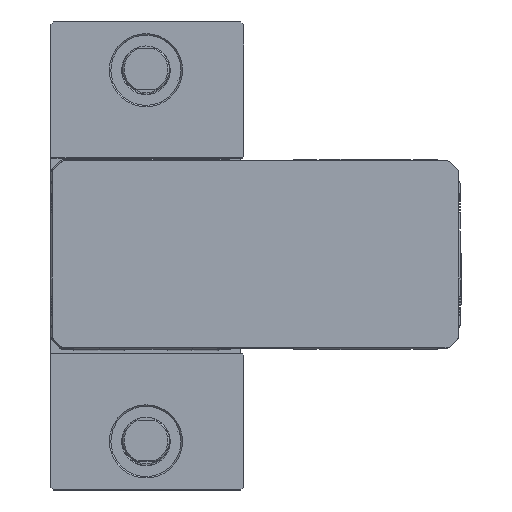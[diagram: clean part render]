
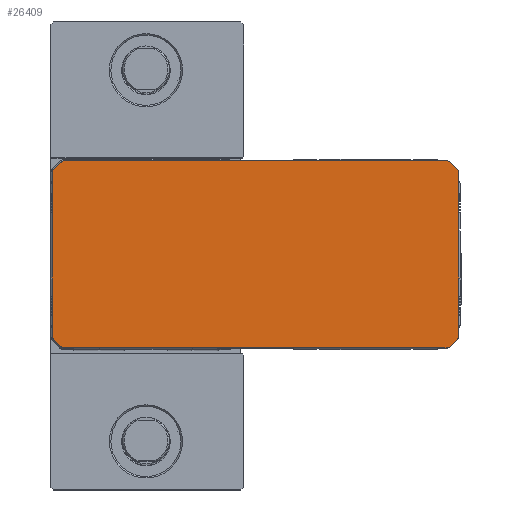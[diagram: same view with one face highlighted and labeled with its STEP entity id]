
A CAD part, top view. The second image highlights one B-rep face of the part: STEP entity #26409.
In plain terms, the highlighted planar face has unit normal (0, 0, 1).
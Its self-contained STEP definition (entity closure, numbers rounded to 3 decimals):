
#55 = DIRECTION ( 'NONE',  ( 0.707, -0.707, 0. ) ) ;
#225 = ORIENTED_EDGE ( 'NONE', *, *, #12434, .T. ) ;
#317 = CARTESIAN_POINT ( 'NONE',  ( 106.561, 29.061, 302.5 ) ) ;
#1016 = CARTESIAN_POINT ( 'NONE',  ( -28., -32., 302.5 ) ) ;
#1058 = VERTEX_POINT ( 'NONE', #11280 ) ;
#1327 = VERTEX_POINT ( 'NONE', #28249 ) ;
#1539 = ORIENTED_EDGE ( 'NONE', *, *, #14083, .T. ) ;
#2346 = DIRECTION ( 'NONE',  ( -1., 0., 0. ) ) ;
#2364 = CARTESIAN_POINT ( 'NONE',  ( 107., -28., 302.5 ) ) ;
#2459 = VECTOR ( 'NONE', #38794, 1000. ) ;
#2741 = CARTESIAN_POINT ( 'NONE',  ( -28., 30.5, 302.5 ) ) ;
#2784 = VERTEX_POINT ( 'NONE', #33770 ) ;
#2898 = CARTESIAN_POINT ( 'NONE',  ( -28., -32., 302.5 ) ) ;
#3455 = VECTOR ( 'NONE', #25543, 1000. ) ;
#3543 = VERTEX_POINT ( 'NONE', #21752 ) ;
#4581 = ORIENTED_EDGE ( 'NONE', *, *, #42526, .T. ) ;
#5766 = LINE ( 'NONE', #317, #2459 ) ;
#5775 = LINE ( 'NONE', #38527, #23335 ) ;
#6048 = LINE ( 'NONE', #30995, #41107 ) ;
#6263 = DIRECTION ( 'NONE',  ( 1., 0., 0. ) ) ;
#6454 = DIRECTION ( 'NONE',  ( 0.707, 0.707, 0. ) ) ;
#7000 = CARTESIAN_POINT ( 'NONE',  ( -29.061, 31.561, 302.5 ) ) ;
#7568 = DIRECTION ( 'NONE',  ( 0., 0., 1. ) ) ;
#7994 = EDGE_CURVE ( 'NONE', #13629, #1058, #5775, .T. ) ;
#8354 = EDGE_CURVE ( 'NONE', #2784, #44758, #35449, .T. ) ;
#8375 = LINE ( 'NONE', #23366, #44527 ) ;
#9029 = DIRECTION ( 'NONE',  ( 0., 0., 1. ) ) ;
#9216 = AXIS2_PLACEMENT_3D ( 'NONE', #30084, #9029, #33583 ) ;
#9392 = DIRECTION ( 'NONE',  ( 0., -1., 0. ) ) ;
#9429 = DIRECTION ( 'NONE',  ( 0., 1., 0. ) ) ;
#10308 = VERTEX_POINT ( 'NONE', #36314 ) ;
#10529 = DIRECTION ( 'NONE',  ( -0.707, -0.707, 0. ) ) ;
#10617 = DIRECTION ( 'NONE',  ( 0., 0., 1. ) ) ;
#10810 = CIRCLE ( 'NONE', #14038, 1.5 ) ;
#11261 = CARTESIAN_POINT ( 'NONE',  ( -30.5, 28., 302.5 ) ) ;
#11280 = CARTESIAN_POINT ( 'NONE',  ( -29.061, -31.561, 302.5 ) ) ;
#11427 = CARTESIAN_POINT ( 'NONE',  ( -31.561, 29.061, 302.5 ) ) ;
#11665 = LINE ( 'NONE', #1016, #3455 ) ;
#12256 = EDGE_LOOP ( 'NONE', ( #26912, #19142, #32892, #13917, #1539, #32630, #36333, #4581, #33469, #225, #29582, #24492, #33983, #35821, #43242, #26121 ) ) ;
#12434 = EDGE_CURVE ( 'NONE', #37988, #44436, #5766, .T. ) ;
#12457 = LINE ( 'NONE', #7000, #22885 ) ;
#13355 = EDGE_CURVE ( 'NONE', #1058, #42032, #44566, .T. ) ;
#13395 = CARTESIAN_POINT ( 'NONE',  ( 107., -28., 302.5 ) ) ;
#13629 = VERTEX_POINT ( 'NONE', #23952 ) ;
#13917 = ORIENTED_EDGE ( 'NONE', *, *, #25781, .T. ) ;
#14038 = AXIS2_PLACEMENT_3D ( 'NONE', #11261, #35802, #14772 ) ;
#14083 = EDGE_CURVE ( 'NONE', #25092, #31373, #14893, .T. ) ;
#14227 = CARTESIAN_POINT ( 'NONE',  ( -28., 32., 302.5 ) ) ;
#14594 = CARTESIAN_POINT ( 'NONE',  ( -28., -30.5, 302.5 ) ) ;
#14714 = CARTESIAN_POINT ( 'NONE',  ( 103., -32., 302.5 ) ) ;
#14772 = DIRECTION ( 'NONE',  ( 1., 0., 0. ) ) ;
#14893 = CIRCLE ( 'NONE', #9216, 1.5 ) ;
#15367 = PLANE ( 'NONE',  #20820 ) ;
#15600 = CARTESIAN_POINT ( 'NONE',  ( 103., 30.5, 302.5 ) ) ;
#16446 = CIRCLE ( 'NONE', #42165, 1.5 ) ;
#17028 = DIRECTION ( 'NONE',  ( 0., 0., 1. ) ) ;
#17272 = EDGE_CURVE ( 'NONE', #1327, #39203, #12457, .T. ) ;
#17678 = EDGE_CURVE ( 'NONE', #3543, #40257, #8375, .T. ) ;
#18099 = DIRECTION ( 'NONE',  ( 1., 0., 0. ) ) ;
#18844 = AXIS2_PLACEMENT_3D ( 'NONE', #14594, #39098, #18099 ) ;
#18876 = DIRECTION ( 'NONE',  ( 0., 0., 1. ) ) ;
#19108 = DIRECTION ( 'NONE',  ( 1., 0., 0. ) ) ;
#19142 = ORIENTED_EDGE ( 'NONE', *, *, #7994, .T. ) ;
#20820 = AXIS2_PLACEMENT_3D ( 'NONE', #39725, #18876, #43397 ) ;
#20893 = AXIS2_PLACEMENT_3D ( 'NONE', #2741, #27267, #6263 ) ;
#21752 = CARTESIAN_POINT ( 'NONE',  ( 103., 32., 302.5 ) ) ;
#22328 = CIRCLE ( 'NONE', #20893, 1.5 ) ;
#22509 = EDGE_CURVE ( 'NONE', #44436, #3543, #41375, .T. ) ;
#22885 = VECTOR ( 'NONE', #10529, 1000. ) ;
#23096 = VECTOR ( 'NONE', #9429, 1000. ) ;
#23335 = VECTOR ( 'NONE', #55, 1000. ) ;
#23366 = CARTESIAN_POINT ( 'NONE',  ( 103., 32., 302.5 ) ) ;
#23952 = CARTESIAN_POINT ( 'NONE',  ( -31.561, -29.061, 302.5 ) ) ;
#24057 = AXIS2_PLACEMENT_3D ( 'NONE', #31631, #10617, #35159 ) ;
#24492 = ORIENTED_EDGE ( 'NONE', *, *, #17678, .T. ) ;
#25092 = VERTEX_POINT ( 'NONE', #14714 ) ;
#25543 = DIRECTION ( 'NONE',  ( 1., 0., 0. ) ) ;
#25781 = EDGE_CURVE ( 'NONE', #42032, #25092, #11665, .T. ) ;
#26121 = ORIENTED_EDGE ( 'NONE', *, *, #8354, .T. ) ;
#26409 = ADVANCED_FACE ( 'NONE', ( #38992 ), #15367, .T. ) ;
#26873 = CARTESIAN_POINT ( 'NONE',  ( -32., 28., 302.5 ) ) ;
#26912 = ORIENTED_EDGE ( 'NONE', *, *, #41071, .T. ) ;
#27151 = EDGE_CURVE ( 'NONE', #31373, #35905, #6048, .T. ) ;
#27267 = DIRECTION ( 'NONE',  ( 0., 0., 1. ) ) ;
#28249 = CARTESIAN_POINT ( 'NONE',  ( -29.061, 31.561, 302.5 ) ) ;
#28590 = CARTESIAN_POINT ( 'NONE',  ( -30.5, -28., 302.5 ) ) ;
#29443 = VECTOR ( 'NONE', #9392, 1000. ) ;
#29582 = ORIENTED_EDGE ( 'NONE', *, *, #22509, .T. ) ;
#29695 = CIRCLE ( 'NONE', #35103, 1.5 ) ;
#30084 = CARTESIAN_POINT ( 'NONE',  ( 103., -30.5, 302.5 ) ) ;
#30776 = EDGE_CURVE ( 'NONE', #40257, #1327, #22328, .T. ) ;
#30995 = CARTESIAN_POINT ( 'NONE',  ( 104.061, -31.561, 302.5 ) ) ;
#31373 = VERTEX_POINT ( 'NONE', #40971 ) ;
#31450 = VERTEX_POINT ( 'NONE', #13395 ) ;
#31631 = CARTESIAN_POINT ( 'NONE',  ( 105.5, -28., 302.5 ) ) ;
#32108 = DIRECTION ( 'NONE',  ( 1., 0., 0. ) ) ;
#32630 = ORIENTED_EDGE ( 'NONE', *, *, #27151, .T. ) ;
#32892 = ORIENTED_EDGE ( 'NONE', *, *, #13355, .T. ) ;
#33116 = CARTESIAN_POINT ( 'NONE',  ( -32., -28., 302.5 ) ) ;
#33469 = ORIENTED_EDGE ( 'NONE', *, *, #43146, .T. ) ;
#33583 = DIRECTION ( 'NONE',  ( 1., 0., 0. ) ) ;
#33770 = CARTESIAN_POINT ( 'NONE',  ( -32., 28., 302.5 ) ) ;
#33983 = ORIENTED_EDGE ( 'NONE', *, *, #30776, .T. ) ;
#35103 = AXIS2_PLACEMENT_3D ( 'NONE', #28590, #7568, #32108 ) ;
#35159 = DIRECTION ( 'NONE',  ( 1., 0., 0. ) ) ;
#35449 = LINE ( 'NONE', #26873, #29443 ) ;
#35802 = DIRECTION ( 'NONE',  ( 0., 0., 1. ) ) ;
#35821 = ORIENTED_EDGE ( 'NONE', *, *, #17272, .T. ) ;
#35905 = VERTEX_POINT ( 'NONE', #41215 ) ;
#36314 = CARTESIAN_POINT ( 'NONE',  ( 107., 28., 302.5 ) ) ;
#36333 = ORIENTED_EDGE ( 'NONE', *, *, #37212, .T. ) ;
#36560 = CIRCLE ( 'NONE', #24057, 1.5 ) ;
#36755 = EDGE_CURVE ( 'NONE', #39203, #2784, #10810, .T. ) ;
#37173 = AXIS2_PLACEMENT_3D ( 'NONE', #15600, #40114, #19108 ) ;
#37212 = EDGE_CURVE ( 'NONE', #35905, #31450, #36560, .T. ) ;
#37988 = VERTEX_POINT ( 'NONE', #43779 ) ;
#38038 = CARTESIAN_POINT ( 'NONE',  ( 105.5, 28., 302.5 ) ) ;
#38527 = CARTESIAN_POINT ( 'NONE',  ( -31.561, -29.061, 302.5 ) ) ;
#38794 = DIRECTION ( 'NONE',  ( -0.707, 0.707, 0. ) ) ;
#38992 = FACE_OUTER_BOUND ( 'NONE', #12256, .T. ) ;
#39098 = DIRECTION ( 'NONE',  ( 0., 0., 1. ) ) ;
#39203 = VERTEX_POINT ( 'NONE', #11427 ) ;
#39725 = CARTESIAN_POINT ( 'NONE',  ( -30.5, -28., 302.5 ) ) ;
#40114 = DIRECTION ( 'NONE',  ( 0., 0., 1. ) ) ;
#40257 = VERTEX_POINT ( 'NONE', #14227 ) ;
#40971 = CARTESIAN_POINT ( 'NONE',  ( 104.061, -31.561, 302.5 ) ) ;
#41071 = EDGE_CURVE ( 'NONE', #44758, #13629, #29695, .T. ) ;
#41107 = VECTOR ( 'NONE', #6454, 1000. ) ;
#41215 = CARTESIAN_POINT ( 'NONE',  ( 106.561, -29.061, 302.5 ) ) ;
#41375 = CIRCLE ( 'NONE', #37173, 1.5 ) ;
#41527 = DIRECTION ( 'NONE',  ( 1., 0., 0. ) ) ;
#42032 = VERTEX_POINT ( 'NONE', #2898 ) ;
#42165 = AXIS2_PLACEMENT_3D ( 'NONE', #38038, #17028, #41527 ) ;
#42526 = EDGE_CURVE ( 'NONE', #31450, #10308, #42796, .T. ) ;
#42796 = LINE ( 'NONE', #2364, #23096 ) ;
#43146 = EDGE_CURVE ( 'NONE', #10308, #37988, #16446, .T. ) ;
#43242 = ORIENTED_EDGE ( 'NONE', *, *, #36755, .T. ) ;
#43397 = DIRECTION ( 'NONE',  ( 1., 0., 0. ) ) ;
#43779 = CARTESIAN_POINT ( 'NONE',  ( 106.561, 29.061, 302.5 ) ) ;
#44436 = VERTEX_POINT ( 'NONE', #45037 ) ;
#44527 = VECTOR ( 'NONE', #2346, 1000. ) ;
#44566 = CIRCLE ( 'NONE', #18844, 1.5 ) ;
#44758 = VERTEX_POINT ( 'NONE', #33116 ) ;
#45037 = CARTESIAN_POINT ( 'NONE',  ( 104.061, 31.561, 302.5 ) ) ;
